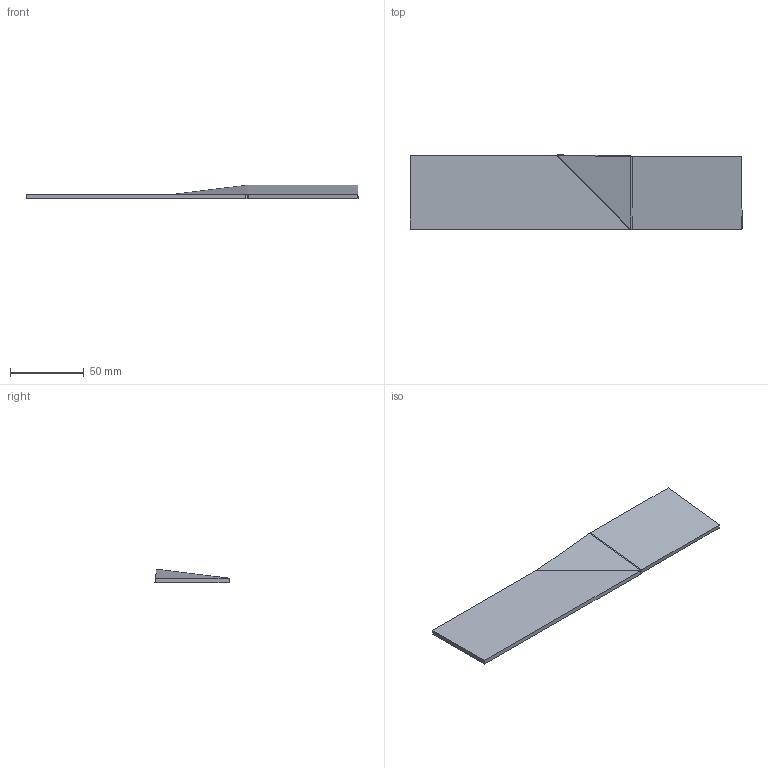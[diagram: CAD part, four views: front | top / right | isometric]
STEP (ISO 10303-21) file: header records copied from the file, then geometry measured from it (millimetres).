
FILE_DESCRIPTION((''),'2;1');
FILE_NAME('G:\IV2k10-Forum\Blech_tordiert.stp','2009-09-08T14:44:37',('Administrator WH'),(''),'Autodesk Inventor 2010','Autodesk Inventor 2010','');
FILE_SCHEMA(('AUTOMOTIVE_DESIGN { 1 0 10303 214 1 1 1 1 }'));
Length unit declared in the file: millimetre
Products named in the file (1): Bauteil11
Bounding box: 225.36 x 50.37 x 9.23 mm (x, y, z)
Volume: 33745.8 mm3; surface area: 24149.5 mm2
Topology: 1 solids, 1 shells, 21 faces, 43 edges, 24 vertices
Faces by surface type: plane 15, cylinder 4, bspline 2
Entity records: 583 total; most frequent: CARTESIAN_POINT 131, ORIENTED_EDGE 86, DIRECTION 83, EDGE_CURVE 43, VECTOR 35, LINE 35, AXIS2_PLACEMENT_3D 24, VERTEX_POINT 24
